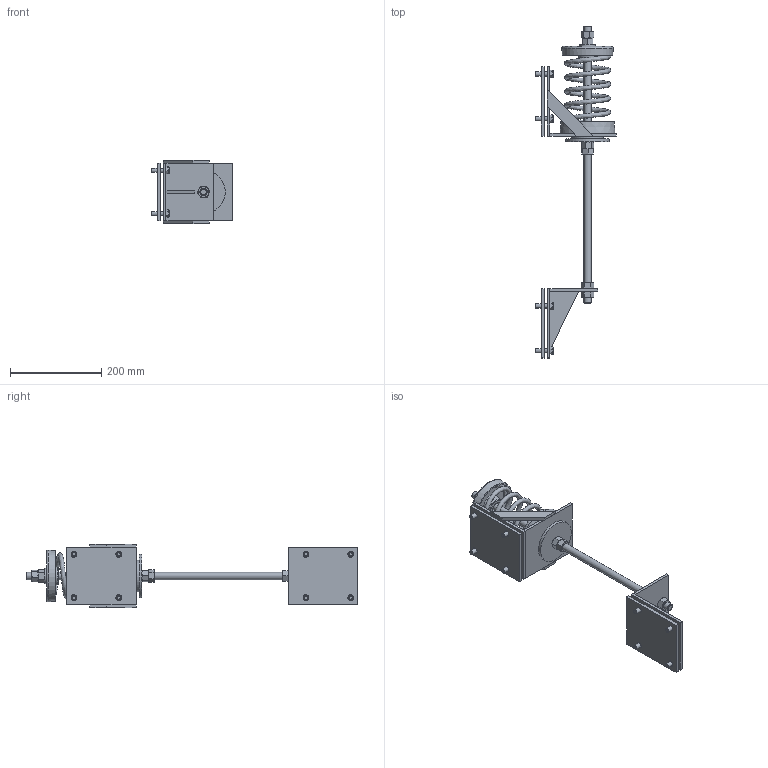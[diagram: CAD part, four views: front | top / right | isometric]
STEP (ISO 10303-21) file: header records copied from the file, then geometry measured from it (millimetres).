
FILE_DESCRIPTION((''),'2;1');
FILE_NAME('C:\2012_Work\Designs\WBI, WBD\129\WBD-129_THRUST-RESTRAINT.stp','2013-10-22T14:02:10',('KShiels'),(''),'Autodesk Inventor 2012','Autodesk Inventor 2012','');
FILE_SCHEMA(('AUTOMOTIVE_DESIGN { 1 0 10303 214 1 1 1 1 }'));
Length unit declared in the file: inch
Products named in the file (22): WBD-129_THRUST-RESTRAINT; A-21633-2_WBI, D -129-ANGLE; A-33162_FIXED-BRACKET; A-33162_B_FIXED-BRACKET; A-33162_C_FIXED-BRACKET; A-33162_A_FIXED-BRACKET; ANSI B18.2.2 - 5_8 - 11(2)_WBI, WBD-129; A-21634-2_MOUNTING-PLATE; ANSI_ASME B18.2.1 - 3_8-16 UNC - 1.25(2)_WBI, WBD-BOLT; A-21633-2_WBD-129-SPRING-ANGLE; A-21632-1_SPRING-BRACKET; A-21632-1_C_SPRING-BRACKET; A-21632-1_A_SPRING-BRACKET; A-21632-1_B_SPRING-BRACKET; WBI, WBD-129_WASHER; A-22419-2R LDS HANGER CUP 4in-WBI,WBD-129; A-22419-2R HANGER CUP 4in; A-22419-2R WASHER 4in; 4 in Cast Spring Cup 15/16 Dia. Hole-Suppressed; WBI, WBD-129_SPRING; Circular Washer (Inch) 5/8; THREADED-ROD_0.625-11UNC, 24in-LONG
Assembly tree (35 placements, depth 4):
  WBD-129_THRUST-RESTRAINT
    A-21633-2_WBI, D -129-ANGLE
      A-33162_FIXED-BRACKET
        A-33162_B_FIXED-BRACKET
        A-33162_C_FIXED-BRACKET
        A-33162_A_FIXED-BRACKET
      ANSI B18.2.2 - 5_8 - 11(2)_WBI, WBD-129  x2
      A-21634-2_MOUNTING-PLATE
      ANSI_ASME B18.2.1 - 3_8-16 UNC - 1.25(2)_WBI, WBD-BOLT  x4
    A-21633-2_WBD-129-SPRING-ANGLE
      A-21632-1_SPRING-BRACKET
        A-21632-1_C_SPRING-BRACKET
        A-21632-1_A_SPRING-BRACKET
        A-21632-1_B_SPRING-BRACKET  x2
      WBI, WBD-129_WASHER
      A-22419-2R LDS HANGER CUP 4in-WBI,WBD-129
        A-22419-2R HANGER CUP 4in
        A-22419-2R WASHER 4in
      4 in Cast Spring Cup 15/16 Dia. Hole-Suppressed
      WBI, WBD-129_SPRING
      ANSI B18.2.2 - 5_8 - 11(2)_WBI, WBD-129  x4
      Circular Washer (Inch) 5/8
      A-21634-2_MOUNTING-PLATE
      ANSI_ASME B18.2.1 - 3_8-16 UNC - 1.25(2)_WBI, WBD-BOLT  x4
    THREADED-ROD_0.625-11UNC, 24in-LONG
Bounding box: 177.8 x 729.06 x 139.7 mm (x, y, z)
Volume: 1299121.3 mm3; surface area: 481742.9 mm2
Topology: 30 solids, 30 shells, 1005 faces, 2418 edges, 1548 vertices
Faces by surface type: plane 627, cone 153, bspline 152, cylinder 63, torus 10
Full cylindrical faces by diameter (mm): 9.525 x8, 9.855 x8, 12.7 x16, 13.386 x6, 14.275 x8, 15.875 x1, 17.463 x1, 17.475 x1, 19.05 x1, 23.813 x1, 33.35 x1, 60.325 x1, 63.5 x1, 66.675 x2, 69.85 x2, 95.25 x1, 100.806 x1, 103.981 x1, 107.95 x2
Entity records: 24440 total; most frequent: CARTESIAN_POINT 8401, ORIENTED_EDGE 3348, DIRECTION 2619, EDGE_CURVE 1674, VECTOR 1229, LINE 1229, VERTEX_POINT 1134, EDGE_LOOP 838
